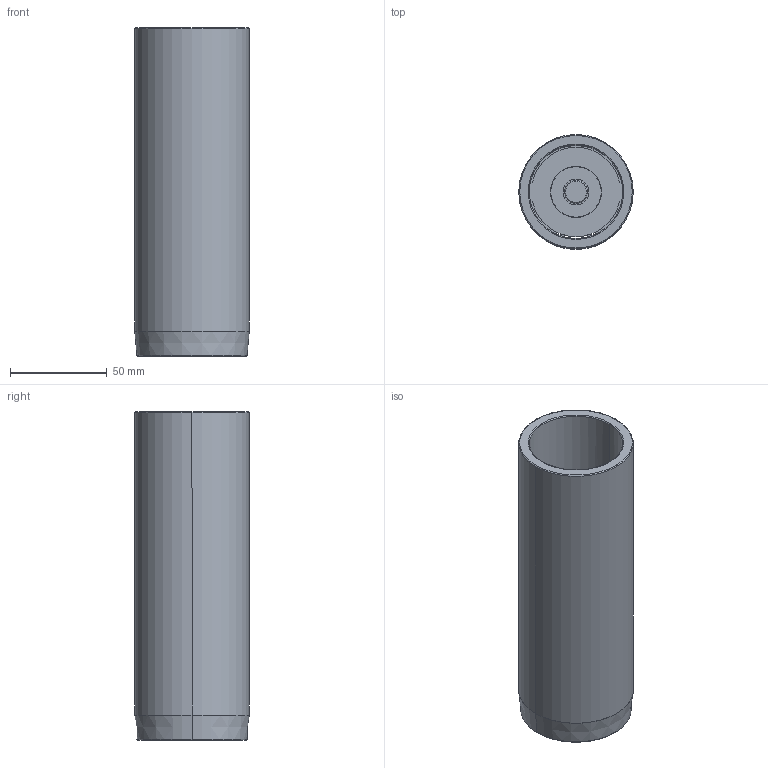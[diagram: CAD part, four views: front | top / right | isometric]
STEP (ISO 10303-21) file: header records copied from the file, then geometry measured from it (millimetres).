
FILE_DESCRIPTION((''),'2;1');
FILE_NAME('C12_048_170.stp','2009-01-28T14:15:05',(''),(''),'Mechanical Desktop 2009','Mechanical Desktop 2009',', , ');
FILE_SCHEMA(('CONFIG_CONTROL_DESIGN'));
Length unit declared in the file: millimetre
Products named in the file (2): Product; blmdl1
Assembly tree (1 placements, depth 2):
  Product
    blmdl1
Bounding box: 59.25 x 59.25 x 170 mm (x, y, z)
Volume: 160851 mm3; surface area: 68599.2 mm2
Topology: 5 solids, 5 shells, 79 faces, 200 edges, 134 vertices
Faces by surface type: cylinder 34, plane 29, torus 10, cone 6
Entity records: 2585 total; most frequent: DIRECTION 480, CARTESIAN_POINT 435, ORIENTED_EDGE 400, AXIS2_PLACEMENT_3D 203, EDGE_CURVE 200, VERTEX_POINT 134, CIRCLE 122, EDGE_LOOP 92
